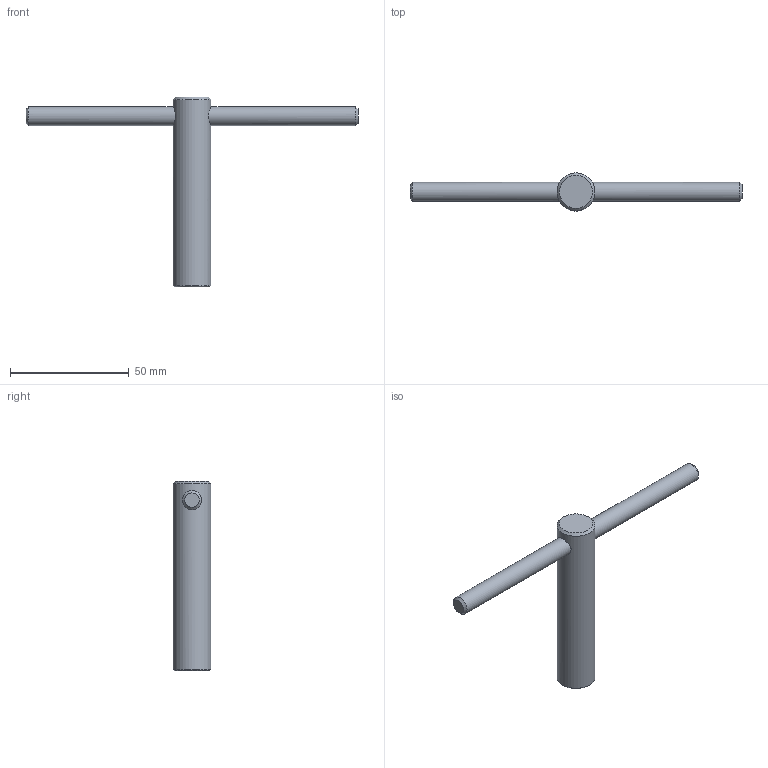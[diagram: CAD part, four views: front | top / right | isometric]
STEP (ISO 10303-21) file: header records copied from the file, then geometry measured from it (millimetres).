
FILE_DESCRIPTION(/* description */ (''),/* implementation_level */ '2;1');
FILE_NAME(/* name */ '\\DC01\Daten\CAD\Standard\Daten\3D-Datenbank\SWS\4 - 3D-CAD-Daten SWS 050-160\SWS050\step-Daten\ZG-VKS050-SW08.stp',/* time_stamp */ '2022-08-16T11:15:29+02:00',/* author */ ('mbecker'),/* organization */ ('GRIP GmbH'),/* preprocessor_version */ 'ST-DEVELOPER v17',/* originating_system */ 'Autodesk Inventor 2018',/* authorisation */ '');
FILE_SCHEMA (('AUTOMOTIVE_DESIGN { 1 0 10303 214 3 1 1 }'));
Length unit declared in the file: millimetre
Products named in the file (1): Aufsteckschlüssel ZG-52192-SSW08
Bounding box: 140 x 16 x 80 mm (x, y, z)
Volume: 21351.4 mm3; surface area: 7927 mm2
Topology: 1 solids, 1 shells, 16 faces, 32 edges, 20 vertices
Faces by surface type: plane 9, cone 4, cylinder 3
Full cylindrical faces by diameter (mm): 8 x2, 16 x1
Entity records: 511 total; most frequent: CARTESIAN_POINT 137, DIRECTION 70, ORIENTED_EDGE 64, EDGE_CURVE 32, AXIS2_PLACEMENT_3D 25, LINE 20, VECTOR 20, VERTEX_POINT 20
